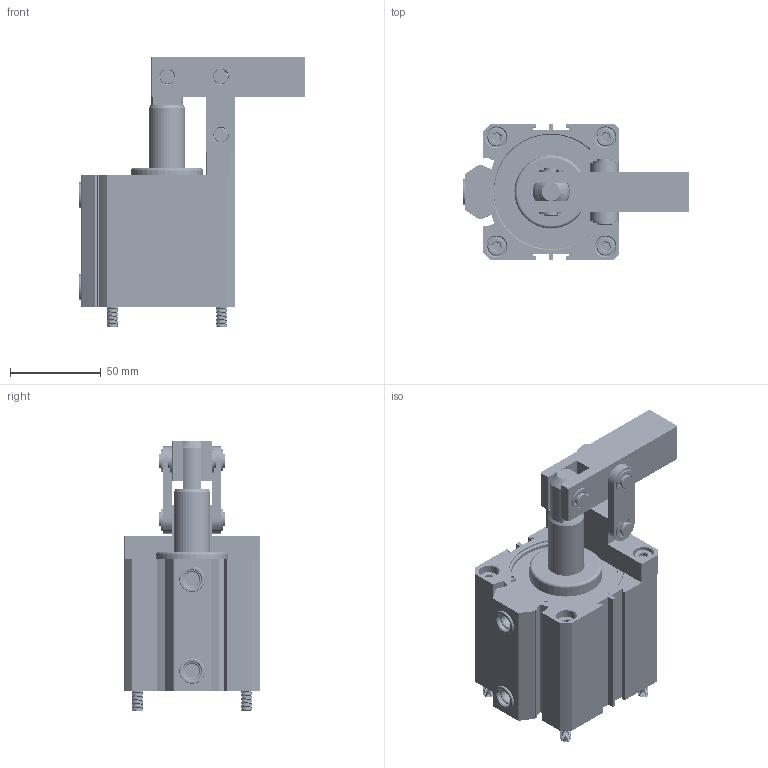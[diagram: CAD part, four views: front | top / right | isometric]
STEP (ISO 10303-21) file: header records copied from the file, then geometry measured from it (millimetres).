
FILE_DESCRIPTION(/* description */ ('STEP AP203'),/* implementation_level */ '2;1');
FILE_NAME(/* name */ 'E:\SERWER_ZAPAS\MODELE brakujace\PNEUMATIC\CALC(STEP)\CALC-63\CALC-63_ZAMKNIETY.stp',/* time_stamp */ '2019-02-06T16:48:06+01:00',/* author */ ('Admin'),/* organization */ ('Î¢ÈíÖÐ¹ú'),/* preprocessor_version */ 'ST-DEVELOPER v17.2',/* originating_system */ 'Autodesk Inventor 2019',/* authorisation */ '');
FILE_SCHEMA (('AUTOMOTIVE_DESIGN { 1 0 10303 214 3 1 1 }'));
Products named in the file (16): CALC-63_ZAMKNIETY; Ç°¸Ç_; 63³¤; ×ªÔØ×Ô; 63001bengti ; ºó¸Ç11; 63»î¸ËÎÒ; 4542; ¶Ì; 11163; 1116302; ¸´¼þ 63; ¿¨¿¨¿¨; 63Ñ¹±Û; 1x4¶ÂÍ·MS63; 63Á¬¸Ë
Assembly tree (26 placements, depth 2):
  CALC-63_ZAMKNIETY
    4542  x2
    ¿¨¿¨¿¨  x6
    Ç°¸Ç_
    63³¤  x2
    ×ªÔØ×Ô
    11163  x2
    63001bengti 
    ºó¸Ç11
    63»î¸ËÎÒ
    63Á¬¸Ë  x2
    1x4¶ÂÍ·MS63  x2
    ¶Ì
    1116302  x2
    ¸´¼þ 63
    63Ñ¹±Û
Bounding box: 124.5 x 75 x 148.5 mm (x, y, z)
Volume: 347850.5 mm3; surface area: 133701.4 mm2
Topology: 26 solids, 26 shells, 867 faces, 2420 edges, 1668 vertices
Faces by surface type: cylinder 442, plane 304, cone 56, torus 42, bspline 23
Full cylindrical faces by diameter (mm): 2 x6, 6 x188, 6.8 x6, 7 x6, 8 x20, 10 x6, 11 x29, 14 x2, 16 x1, 18 x9, 20 x3, 22 x1, 28.2 x1, 35.5 x1, 35.678 x1, 36 x1, 40 x1, 44 x1, 45.178 x1, 45.5 x1, 46 x1, 47.178 x1, 50 x1, 55.5 x1, 58.858 x1, 59.4 x1, 59.8 x1, 63 x10, 65 x1
Entity records: 45691 total; most frequent: CARTESIAN_POINT 30837, ORIENTED_EDGE 3044, DIRECTION 2957, EDGE_CURVE 1522, AXIS2_PLACEMENT_3D 1158, VERTEX_POINT 1062, LINE 641, VECTOR 641
